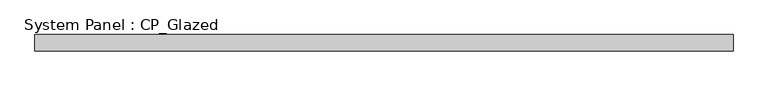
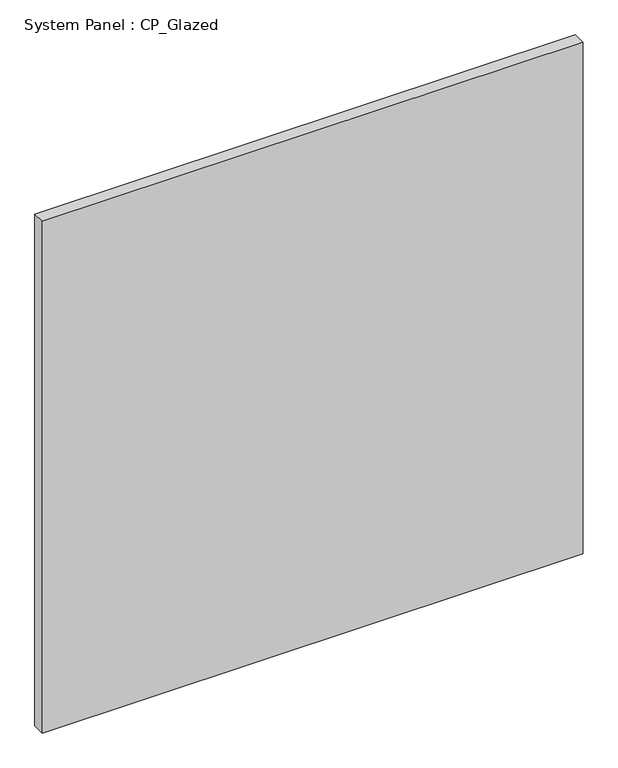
"""IFC4 building model written with IfcOpenShell, lengths in millimetres: plate geometry, System Panel : CP_Glazed."""

from ifc_helpers import new_model, si_unit, origin, origin_with_axes, place, context, project, spatial, polyline, outline, extrude, source, transform, mapped, element, save


def system_panel_cp_glazed_1dd6955d(model_context):
    return source(origin(), model_context, "Body", "SweptSolid", [
        extrude(outline(polyline([(546.1, -44.45), (-546.1, -44.45), (-546.1, -19.05), (546.1, -19.05), (546.1, -44.45)])), origin_with_axes(), (0.0, 0.0, 1.0), 1092.2),
    ])


if __name__ == "__main__":
    model = new_model("IFC4")
    model_context = context("Model", 3, world=origin())
    ifc_project = project(units=[si_unit("LENGTHUNIT", "METRE", prefix="MILLI")], contexts=[model_context])
    site = spatial("IfcSite", under=ifc_project)
    building = spatial("IfcBuilding", under=site)
    placement = place(None, origin())
    system_panel_cp_glazed_shape = system_panel_cp_glazed_1dd6955d(model_context)
    element("IfcPlate", 1, ObjectType="System Panel : CP_Glazed", at=placement, inside=building, context=model_context, shape_type="MappedRepresentation", body=[
        mapped(system_panel_cp_glazed_shape, transform((0.0, 0.0, 0.0), x_axis=(1.0, 0.0, 0.0), y_axis=(0.0, 1.0, 0.0), z_axis=(0.0, 0.0, 1.0))),
    ])
    save(model, "model.ifc")
